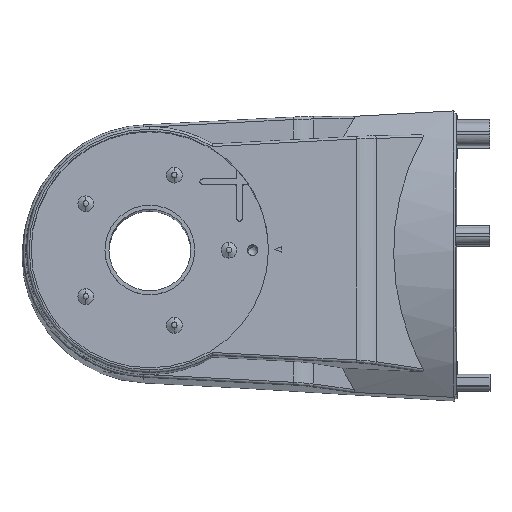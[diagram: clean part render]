
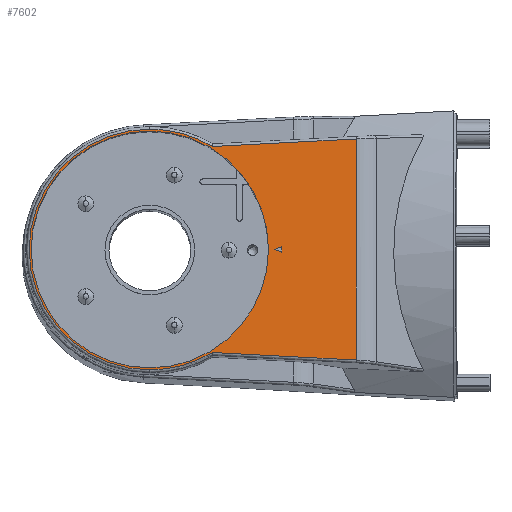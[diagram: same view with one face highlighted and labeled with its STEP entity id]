
A CAD part, left-side view. The second image highlights one B-rep face of the part: STEP entity #7602.
In plain terms, the highlighted planar face has unit normal (-0.998, 0, 0.067).
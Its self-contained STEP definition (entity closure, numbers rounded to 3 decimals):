
#15 = VERTEX_POINT ( 'NONE', #6679 ) ;
#50 = ORIENTED_EDGE ( 'NONE', *, *, #1351, .T. ) ;
#67 = EDGE_CURVE ( 'NONE', #5145, #9581, #7858, .T. ) ;
#81 = CIRCLE ( 'NONE', #993, 45.755 ) ;
#109 = DIRECTION ( 'NONE',  ( -0.998, 0., 0.067 ) ) ;
#210 = AXIS2_PLACEMENT_3D ( 'NONE', #4582, #5306, #784 ) ;
#244 = EDGE_LOOP ( 'NONE', ( #5978, #5159, #2021 ) ) ;
#438 = LINE ( 'NONE', #9001, #5672 ) ;
#509 = ORIENTED_EDGE ( 'NONE', *, *, #2802, .T. ) ;
#784 = DIRECTION ( 'NONE',  ( 0.067, 0., 0.998 ) ) ;
#789 = VERTEX_POINT ( 'NONE', #5455 ) ;
#891 = DIRECTION ( 'NONE',  ( -0.004, -0.999, -0.052 ) ) ;
#993 = AXIS2_PLACEMENT_3D ( 'NONE', #2401, #109, #6922 ) ;
#1174 = LINE ( 'NONE', #7282, #3391 ) ;
#1337 = VERTEX_POINT ( 'NONE', #9083 ) ;
#1347 = DIRECTION ( 'NONE',  ( 0.067, 0., 0.998 ) ) ;
#1351 = EDGE_CURVE ( 'NONE', #2138, #9590, #5489, .T. ) ;
#1390 = VECTOR ( 'NONE', #4706, 1000. ) ;
#1593 = FACE_OUTER_BOUND ( 'NONE', #5384, .T. ) ;
#1895 = VERTEX_POINT ( 'NONE', #6201 ) ;
#1968 = AXIS2_PLACEMENT_3D ( 'NONE', #7117, #7874, #8663 ) ;
#2021 = ORIENTED_EDGE ( 'NONE', *, *, #67, .F. ) ;
#2080 = CARTESIAN_POINT ( 'NONE',  ( -110.249, 72.395, 184.735 ) ) ;
#2138 = VERTEX_POINT ( 'NONE', #9618 ) ;
#2325 = CARTESIAN_POINT ( 'NONE',  ( -113.321, 72.395, 139.084 ) ) ;
#2362 = ORIENTED_EDGE ( 'NONE', *, *, #9074, .T. ) ;
#2401 = CARTESIAN_POINT ( 'NONE',  ( -110.249, 72.395, 184.735 ) ) ;
#2463 = CARTESIAN_POINT ( 'NONE',  ( -107.429, -5.879, 226.649 ) ) ;
#2616 = CARTESIAN_POINT ( 'NONE',  ( -110.316, 22.395, 183.738 ) ) ;
#2802 = EDGE_CURVE ( 'NONE', #9590, #3783, #9692, .T. ) ;
#2860 = CARTESIAN_POINT ( 'NONE',  ( -107.621, 48.71, 223.794 ) ) ;
#2967 = EDGE_CURVE ( 'NONE', #9581, #1337, #5340, .T. ) ;
#3041 = ORIENTED_EDGE ( 'NONE', *, *, #6250, .T. ) ;
#3274 = EDGE_CURVE ( 'NONE', #1895, #9520, #81, .T. ) ;
#3391 = VECTOR ( 'NONE', #7213, 1000. ) ;
#3489 = CARTESIAN_POINT ( 'NONE',  ( -110.249, 72.395, 184.735 ) ) ;
#3508 = CIRCLE ( 'NONE', #1968, 45.755 ) ;
#3588 = DIRECTION ( 'NONE',  ( 0.998, 0., -0.067 ) ) ;
#3707 = FACE_BOUND ( 'NONE', #244, .T. ) ;
#3783 = VERTEX_POINT ( 'NONE', #2463 ) ;
#4095 = ORIENTED_EDGE ( 'NONE', *, *, #4599, .T. ) ;
#4253 = DIRECTION ( 'NONE',  ( 0.067, 0., 0.998 ) ) ;
#4472 = ORIENTED_EDGE ( 'NONE', *, *, #7999, .T. ) ;
#4582 = CARTESIAN_POINT ( 'NONE',  ( -110.249, 72.395, 184.735 ) ) ;
#4599 = EDGE_CURVE ( 'NONE', #789, #15, #8454, .T. ) ;
#4619 = CARTESIAN_POINT ( 'NONE',  ( -112.787, 74.377, 147.019 ) ) ;
#4660 = CARTESIAN_POINT ( 'NONE',  ( -107.348, -5.879, 227.846 ) ) ;
#4706 = DIRECTION ( 'NONE',  ( 0.067, 0., 0.998 ) ) ;
#4766 = CIRCLE ( 'NONE', #9487, 45. ) ;
#4932 = CIRCLE ( 'NONE', #7842, 45.755 ) ;
#5110 = DIRECTION ( 'NONE',  ( -0.022, -0.943, -0.333 ) ) ;
#5145 = VERTEX_POINT ( 'NONE', #9687 ) ;
#5159 = ORIENTED_EDGE ( 'NONE', *, *, #2967, .F. ) ;
#5306 = DIRECTION ( 'NONE',  ( -0.998, 0., 0.067 ) ) ;
#5340 = LINE ( 'NONE', #2616, #7090 ) ;
#5384 = EDGE_LOOP ( 'NONE', ( #2362, #8063, #4472, #50, #509, #3041 ) ) ;
#5455 = CARTESIAN_POINT ( 'NONE',  ( -113.271, 72.395, 139.837 ) ) ;
#5489 = LINE ( 'NONE', #4619, #8653 ) ;
#5537 = CARTESIAN_POINT ( 'NONE',  ( -110.249, 25.224, 184.735 ) ) ;
#5549 = FACE_BOUND ( 'NONE', #6217, .T. ) ;
#5641 = VECTOR ( 'NONE', #8911, 1000. ) ;
#5672 = VECTOR ( 'NONE', #7356, 1000. ) ;
#5934 = PLANE ( 'NONE',  #210 ) ;
#5978 = ORIENTED_EDGE ( 'NONE', *, *, #9289, .F. ) ;
#6201 = CARTESIAN_POINT ( 'NONE',  ( -107.177, 72.395, 230.387 ) ) ;
#6217 = EDGE_LOOP ( 'NONE', ( #7653, #4095 ) ) ;
#6250 = EDGE_CURVE ( 'NONE', #3783, #8442, #438, .T. ) ;
#6585 = DIRECTION ( 'NONE',  ( 0.067, 0., 0.998 ) ) ;
#6610 = DIRECTION ( 'NONE',  ( -0.998, 0., 0.067 ) ) ;
#6679 = CARTESIAN_POINT ( 'NONE',  ( -107.228, 72.395, 229.634 ) ) ;
#6922 = DIRECTION ( 'NONE',  ( 0.067, 0., 0.998 ) ) ;
#7044 = EDGE_CURVE ( 'NONE', #15, #789, #4766, .T. ) ;
#7090 = VECTOR ( 'NONE', #5110, 1000. ) ;
#7117 = CARTESIAN_POINT ( 'NONE',  ( -110.249, 72.395, 184.735 ) ) ;
#7213 = DIRECTION ( 'NONE',  ( 0.067, 0., 0.998 ) ) ;
#7282 = CARTESIAN_POINT ( 'NONE',  ( -110.182, 22.395, 185.733 ) ) ;
#7289 = DIRECTION ( 'NONE',  ( 0.998, 0., -0.067 ) ) ;
#7356 = DIRECTION ( 'NONE',  ( -0.004, 0.999, -0.052 ) ) ;
#7602 = ADVANCED_FACE ( 'NONE', ( #5549, #1593, #3707 ), #5934, .T. ) ;
#7653 = ORIENTED_EDGE ( 'NONE', *, *, #7044, .T. ) ;
#7800 = AXIS2_PLACEMENT_3D ( 'NONE', #3489, #7289, #4253 ) ;
#7842 = AXIS2_PLACEMENT_3D ( 'NONE', #8076, #6610, #6585 ) ;
#7858 = LINE ( 'NONE', #8126, #5641 ) ;
#7874 = DIRECTION ( 'NONE',  ( -0.998, 0., 0.067 ) ) ;
#7999 = EDGE_CURVE ( 'NONE', #9520, #2138, #4932, .T. ) ;
#8063 = ORIENTED_EDGE ( 'NONE', *, *, #3274, .T. ) ;
#8076 = CARTESIAN_POINT ( 'NONE',  ( -110.249, 72.395, 184.735 ) ) ;
#8126 = CARTESIAN_POINT ( 'NONE',  ( -110.249, 25.224, 184.735 ) ) ;
#8442 = VERTEX_POINT ( 'NONE', #2860 ) ;
#8454 = CIRCLE ( 'NONE', #7800, 45. ) ;
#8476 = CARTESIAN_POINT ( 'NONE',  ( -113.07, -5.879, 142.822 ) ) ;
#8653 = VECTOR ( 'NONE', #891, 1000. ) ;
#8663 = DIRECTION ( 'NONE',  ( 0.067, 0., 0.998 ) ) ;
#8911 = DIRECTION ( 'NONE',  ( -0.022, 0.943, -0.333 ) ) ;
#9001 = CARTESIAN_POINT ( 'NONE',  ( -107.711, 74.377, 222.452 ) ) ;
#9074 = EDGE_CURVE ( 'NONE', #8442, #1895, #3508, .T. ) ;
#9083 = CARTESIAN_POINT ( 'NONE',  ( -110.316, 22.395, 183.738 ) ) ;
#9289 = EDGE_CURVE ( 'NONE', #1337, #5145, #1174, .T. ) ;
#9487 = AXIS2_PLACEMENT_3D ( 'NONE', #2080, #3588, #1347 ) ;
#9520 = VERTEX_POINT ( 'NONE', #2325 ) ;
#9581 = VERTEX_POINT ( 'NONE', #5537 ) ;
#9590 = VERTEX_POINT ( 'NONE', #8476 ) ;
#9618 = CARTESIAN_POINT ( 'NONE',  ( -112.878, 48.71, 145.676 ) ) ;
#9687 = CARTESIAN_POINT ( 'NONE',  ( -110.182, 22.395, 185.733 ) ) ;
#9692 = LINE ( 'NONE', #4660, #1390 ) ;
